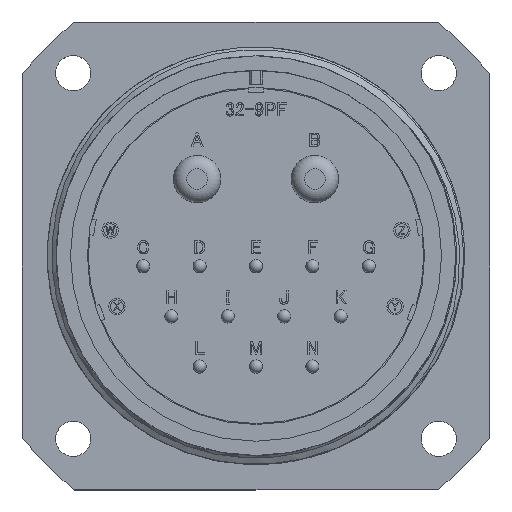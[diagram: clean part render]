
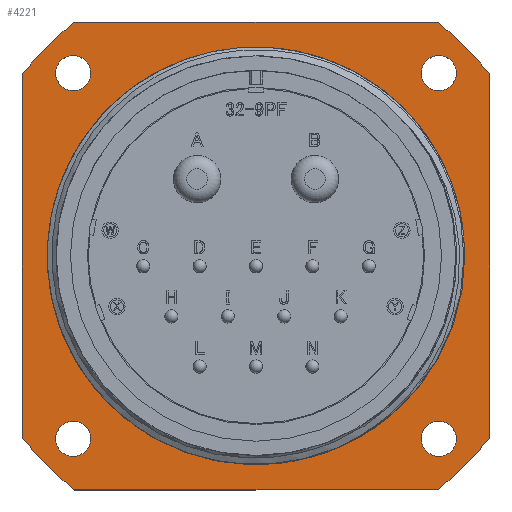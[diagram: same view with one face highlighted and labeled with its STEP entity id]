
A CAD part, top view. The second image highlights one B-rep face of the part: STEP entity #4221.
In plain terms, the highlighted planar face has unit normal (0, 0, 1).
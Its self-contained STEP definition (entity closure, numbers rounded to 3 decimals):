
#235 = EDGE_LOOP ( 'NONE', ( #26127 ) ) ;
#446 = DIRECTION ( 'NONE',  ( 0., 0., 1. ) ) ;
#795 = ORIENTED_EDGE ( 'NONE', *, *, #33121, .F. ) ;
#813 = CARTESIAN_POINT ( 'NONE',  ( 0., 0., -22.4 ) ) ;
#1344 = AXIS2_PLACEMENT_3D ( 'NONE', #10903, #8382, #16594 ) ;
#1351 = CARTESIAN_POINT ( 'NONE',  ( 24.36, -22.225, -22.4 ) ) ;
#1462 = CARTESIAN_POINT ( 'NONE',  ( 28.45, 22.059, -22.4 ) ) ;
#1470 = EDGE_CURVE ( 'NONE', #9503, #9503, #2408, .T. ) ;
#1551 = DIRECTION ( 'NONE',  ( 1., 0., 0. ) ) ;
#2101 = ORIENTED_EDGE ( 'NONE', *, *, #2576, .F. ) ;
#2142 = CARTESIAN_POINT ( 'NONE',  ( -22.059, 28.45, -22.4 ) ) ;
#2152 = EDGE_LOOP ( 'NONE', ( #21380 ) ) ;
#2408 = CIRCLE ( 'NONE', #8945, 2.135 ) ;
#2576 = EDGE_CURVE ( 'NONE', #5663, #5663, #33932, .T. ) ;
#2739 = ORIENTED_EDGE ( 'NONE', *, *, #31223, .T. ) ;
#2888 = CARTESIAN_POINT ( 'NONE',  ( 22.225, 22.225, -22.4 ) ) ;
#3161 = CIRCLE ( 'NONE', #13304, 36. ) ;
#3280 = EDGE_LOOP ( 'NONE', ( #22925 ) ) ;
#3542 = EDGE_CURVE ( 'NONE', #9040, #31882, #3161, .T. ) ;
#3571 = DIRECTION ( 'NONE',  ( 0., 0., 1. ) ) ;
#3752 = AXIS2_PLACEMENT_3D ( 'NONE', #22527, #446, #30292 ) ;
#3821 = FACE_BOUND ( 'NONE', #13642, .T. ) ;
#3968 = CIRCLE ( 'NONE', #33479, 25.38 ) ;
#4221 = ADVANCED_FACE ( 'NONE', ( #25585, #3821, #14888, #17453, #4683, #22166 ), #25756, .F. ) ;
#4371 = CARTESIAN_POINT ( 'NONE',  ( 22.059, 28.45, -22.4 ) ) ;
#4683 = FACE_BOUND ( 'NONE', #235, .T. ) ;
#4805 = VERTEX_POINT ( 'NONE', #12062 ) ;
#4949 = AXIS2_PLACEMENT_3D ( 'NONE', #2888, #11122, #27461 ) ;
#4952 = LINE ( 'NONE', #24007, #17029 ) ;
#5452 = VERTEX_POINT ( 'NONE', #15508 ) ;
#5663 = VERTEX_POINT ( 'NONE', #1351 ) ;
#6658 = CIRCLE ( 'NONE', #1344, 2.135 ) ;
#6848 = CARTESIAN_POINT ( 'NONE',  ( -24.36, -22.225, -22.4 ) ) ;
#6943 = EDGE_CURVE ( 'NONE', #23601, #23601, #6658, .T. ) ;
#7023 = CARTESIAN_POINT ( 'NONE',  ( 0., 25.38, -22.4 ) ) ;
#7318 = CARTESIAN_POINT ( 'NONE',  ( 0., 0., -22.4 ) ) ;
#7792 = CIRCLE ( 'NONE', #3752, 36. ) ;
#8382 = DIRECTION ( 'NONE',  ( 0., 0., 1. ) ) ;
#8726 = AXIS2_PLACEMENT_3D ( 'NONE', #23350, #26193, #28478 ) ;
#8945 = AXIS2_PLACEMENT_3D ( 'NONE', #10443, #26423, #13149 ) ;
#9040 = VERTEX_POINT ( 'NONE', #27267 ) ;
#9503 = VERTEX_POINT ( 'NONE', #6848 ) ;
#9526 = VERTEX_POINT ( 'NONE', #29854 ) ;
#9674 = DIRECTION ( 'NONE',  ( -1., 0., 0. ) ) ;
#10084 = EDGE_LOOP ( 'NONE', ( #2101 ) ) ;
#10208 = LINE ( 'NONE', #14031, #31109 ) ;
#10443 = CARTESIAN_POINT ( 'NONE',  ( -22.225, -22.225, -22.4 ) ) ;
#10903 = CARTESIAN_POINT ( 'NONE',  ( -22.225, 22.225, -22.4 ) ) ;
#11122 = DIRECTION ( 'NONE',  ( 0., 0., 1. ) ) ;
#11600 = DIRECTION ( 'NONE',  ( 1., 0., 0. ) ) ;
#11627 = VERTEX_POINT ( 'NONE', #4371 ) ;
#11955 = CARTESIAN_POINT ( 'NONE',  ( -20.09, 22.225, -22.4 ) ) ;
#12062 = CARTESIAN_POINT ( 'NONE',  ( 25.38, 0., -22.4 ) ) ;
#12129 = DIRECTION ( 'NONE',  ( 0., 0., -1. ) ) ;
#12355 = VECTOR ( 'NONE', #25155, 1000. ) ;
#12676 = AXIS2_PLACEMENT_3D ( 'NONE', #813, #3571, #14644 ) ;
#13149 = DIRECTION ( 'NONE',  ( -1., 0., 0. ) ) ;
#13304 = AXIS2_PLACEMENT_3D ( 'NONE', #27528, #31007, #30288 ) ;
#13642 = EDGE_LOOP ( 'NONE', ( #15922 ) ) ;
#14031 = CARTESIAN_POINT ( 'NONE',  ( 22.059, -28.45, -22.4 ) ) ;
#14392 = CARTESIAN_POINT ( 'NONE',  ( 28.45, 22.059, -22.4 ) ) ;
#14644 = DIRECTION ( 'NONE',  ( 1., 0., 0. ) ) ;
#14888 = FACE_BOUND ( 'NONE', #3280, .T. ) ;
#15508 = CARTESIAN_POINT ( 'NONE',  ( -22.059, -28.45, -22.4 ) ) ;
#15922 = ORIENTED_EDGE ( 'NONE', *, *, #1470, .F. ) ;
#16249 = EDGE_CURVE ( 'NONE', #18200, #31882, #28605, .T. ) ;
#16594 = DIRECTION ( 'NONE',  ( 1., 0., 0. ) ) ;
#17029 = VECTOR ( 'NONE', #21756, 1000. ) ;
#17251 = VERTEX_POINT ( 'NONE', #2142 ) ;
#17453 = FACE_BOUND ( 'NONE', #2152, .T. ) ;
#17522 = EDGE_CURVE ( 'NONE', #9040, #5452, #10208, .T. ) ;
#17849 = AXIS2_PLACEMENT_3D ( 'NONE', #7318, #26409, #32129 ) ;
#17887 = CARTESIAN_POINT ( 'NONE',  ( 0., 0., -22.4 ) ) ;
#18200 = VERTEX_POINT ( 'NONE', #1462 ) ;
#18257 = EDGE_CURVE ( 'NONE', #26113, #5452, #27639, .T. ) ;
#19530 = CIRCLE ( 'NONE', #4949, 2.135 ) ;
#21380 = ORIENTED_EDGE ( 'NONE', *, *, #6943, .F. ) ;
#21756 = DIRECTION ( 'NONE',  ( 0., 1., 0. ) ) ;
#21977 = CARTESIAN_POINT ( 'NONE',  ( -28.45, -22.059, -22.4 ) ) ;
#22166 = FACE_OUTER_BOUND ( 'NONE', #22933, .T. ) ;
#22366 = EDGE_CURVE ( 'NONE', #4805, #4805, #3968, .T. ) ;
#22527 = CARTESIAN_POINT ( 'NONE',  ( 0., 0., -22.4 ) ) ;
#22561 = EDGE_CURVE ( 'NONE', #18200, #11627, #7792, .T. ) ;
#22693 = CIRCLE ( 'NONE', #12676, 36. ) ;
#22925 = ORIENTED_EDGE ( 'NONE', *, *, #26111, .F. ) ;
#22933 = EDGE_LOOP ( 'NONE', ( #2739, #32415, #27200, #24019, #25153, #28748, #35296, #795 ) ) ;
#23147 = VECTOR ( 'NONE', #11600, 1000. ) ;
#23350 = CARTESIAN_POINT ( 'NONE',  ( 22.225, -22.225, -22.4 ) ) ;
#23496 = EDGE_CURVE ( 'NONE', #26113, #9526, #4952, .T. ) ;
#23601 = VERTEX_POINT ( 'NONE', #11955 ) ;
#24007 = CARTESIAN_POINT ( 'NONE',  ( -28.45, 22.059, -22.4 ) ) ;
#24019 = ORIENTED_EDGE ( 'NONE', *, *, #17522, .F. ) ;
#25025 = DIRECTION ( 'NONE',  ( -1., 0., 0. ) ) ;
#25153 = ORIENTED_EDGE ( 'NONE', *, *, #3542, .T. ) ;
#25155 = DIRECTION ( 'NONE',  ( 0., -1., 0. ) ) ;
#25585 = FACE_BOUND ( 'NONE', #10084, .T. ) ;
#25756 = PLANE ( 'NONE',  #26133 ) ;
#26111 = EDGE_CURVE ( 'NONE', #29965, #29965, #19530, .T. ) ;
#26113 = VERTEX_POINT ( 'NONE', #21977 ) ;
#26127 = ORIENTED_EDGE ( 'NONE', *, *, #22366, .F. ) ;
#26133 = AXIS2_PLACEMENT_3D ( 'NONE', #7023, #12129, #9674 ) ;
#26193 = DIRECTION ( 'NONE',  ( 0., 0., 1. ) ) ;
#26409 = DIRECTION ( 'NONE',  ( 0., 0., 1. ) ) ;
#26423 = DIRECTION ( 'NONE',  ( 0., 0., 1. ) ) ;
#26524 = CARTESIAN_POINT ( 'NONE',  ( 20.09, 22.225, -22.4 ) ) ;
#27200 = ORIENTED_EDGE ( 'NONE', *, *, #18257, .T. ) ;
#27267 = CARTESIAN_POINT ( 'NONE',  ( 22.059, -28.45, -22.4 ) ) ;
#27461 = DIRECTION ( 'NONE',  ( -1., 0., 0. ) ) ;
#27528 = CARTESIAN_POINT ( 'NONE',  ( 0., 0., -22.4 ) ) ;
#27639 = CIRCLE ( 'NONE', #17849, 36. ) ;
#28478 = DIRECTION ( 'NONE',  ( 1., 0., 0. ) ) ;
#28605 = LINE ( 'NONE', #14392, #12355 ) ;
#28748 = ORIENTED_EDGE ( 'NONE', *, *, #16249, .F. ) ;
#29854 = CARTESIAN_POINT ( 'NONE',  ( -28.45, 22.059, -22.4 ) ) ;
#29965 = VERTEX_POINT ( 'NONE', #26524 ) ;
#30288 = DIRECTION ( 'NONE',  ( 1., 0., 0. ) ) ;
#30292 = DIRECTION ( 'NONE',  ( 1., 0., 0. ) ) ;
#30357 = CARTESIAN_POINT ( 'NONE',  ( 22.059, 28.45, -22.4 ) ) ;
#31007 = DIRECTION ( 'NONE',  ( 0., 0., 1. ) ) ;
#31109 = VECTOR ( 'NONE', #25025, 1000. ) ;
#31223 = EDGE_CURVE ( 'NONE', #17251, #9526, #22693, .T. ) ;
#31506 = DIRECTION ( 'NONE',  ( 0., 0., 1. ) ) ;
#31882 = VERTEX_POINT ( 'NONE', #33911 ) ;
#32129 = DIRECTION ( 'NONE',  ( 1., 0., 0. ) ) ;
#32415 = ORIENTED_EDGE ( 'NONE', *, *, #23496, .F. ) ;
#33121 = EDGE_CURVE ( 'NONE', #17251, #11627, #33409, .T. ) ;
#33409 = LINE ( 'NONE', #30357, #23147 ) ;
#33479 = AXIS2_PLACEMENT_3D ( 'NONE', #17887, #31506, #1551 ) ;
#33911 = CARTESIAN_POINT ( 'NONE',  ( 28.45, -22.059, -22.4 ) ) ;
#33932 = CIRCLE ( 'NONE', #8726, 2.135 ) ;
#35296 = ORIENTED_EDGE ( 'NONE', *, *, #22561, .T. ) ;
